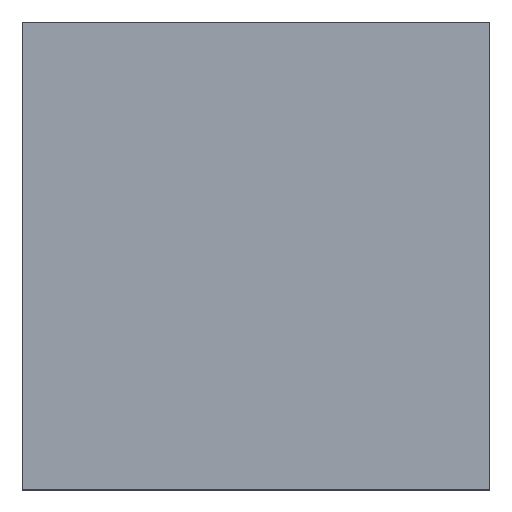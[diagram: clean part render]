
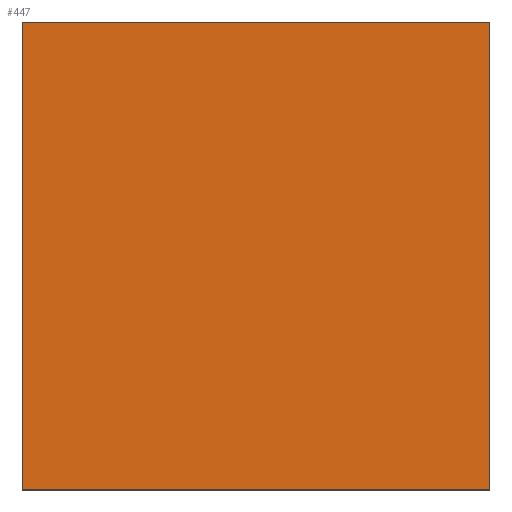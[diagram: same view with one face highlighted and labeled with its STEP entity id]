
A CAD part, top view. The second image highlights one B-rep face of the part: STEP entity #447.
In plain terms, the highlighted planar face has unit normal (0, 0, 1).
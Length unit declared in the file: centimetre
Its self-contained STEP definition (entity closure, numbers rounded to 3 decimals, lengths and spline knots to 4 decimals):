
#4 = ORIENTED_EDGE ( 'NONE', *, *, #1525, .T. ) ;
#57 = DIRECTION ( 'NONE',  ( 0., 0., 1. ) ) ;
#73 = VERTEX_POINT ( 'NONE', #82 ) ;
#82 = CARTESIAN_POINT ( 'NONE',  ( 0., 1000., 1000. ) ) ;
#246 = EDGE_CURVE ( 'NONE', #1571, #73, #675, .T. ) ;
#447 = ADVANCED_FACE ( 'NONE', ( #621 ), #1168, .T. ) ;
#485 = CARTESIAN_POINT ( 'NONE',  ( 0., 0., 1000. ) ) ;
#512 = VERTEX_POINT ( 'NONE', #485 ) ;
#580 = DIRECTION ( 'NONE',  ( 1., 0., 0. ) ) ;
#591 = ORIENTED_EDGE ( 'NONE', *, *, #906, .T. ) ;
#621 = FACE_OUTER_BOUND ( 'NONE', #1387, .T. ) ;
#622 = CARTESIAN_POINT ( 'NONE',  ( 1000., 0., 1000. ) ) ;
#634 = LINE ( 'NONE', #1362, #1569 ) ;
#659 = CARTESIAN_POINT ( 'NONE',  ( 1000., 1000., 1000. ) ) ;
#675 = LINE ( 'NONE', #1264, #1389 ) ;
#693 = DIRECTION ( 'NONE',  ( -1., 0., 0. ) ) ;
#748 = CARTESIAN_POINT ( 'NONE',  ( 0., 0., 1000. ) ) ;
#804 = ORIENTED_EDGE ( 'NONE', *, *, #1045, .T. ) ;
#828 = LINE ( 'NONE', #1384, #1303 ) ;
#906 = EDGE_CURVE ( 'NONE', #512, #1373, #828, .T. ) ;
#1045 = EDGE_CURVE ( 'NONE', #73, #512, #1764, .T. ) ;
#1085 = DIRECTION ( 'NONE',  ( 0., -1., 0. ) ) ;
#1168 = PLANE ( 'NONE',  #1417 ) ;
#1264 = CARTESIAN_POINT ( 'NONE',  ( 0., 1000., 1000. ) ) ;
#1303 = VECTOR ( 'NONE', #580, 100. ) ;
#1315 = DIRECTION ( 'NONE',  ( 1., 0., 0. ) ) ;
#1334 = DIRECTION ( 'NONE',  ( 0., 1., 0. ) ) ;
#1362 = CARTESIAN_POINT ( 'NONE',  ( 1000., 1000., 1000. ) ) ;
#1373 = VERTEX_POINT ( 'NONE', #622 ) ;
#1384 = CARTESIAN_POINT ( 'NONE',  ( 0., 0., 1000. ) ) ;
#1387 = EDGE_LOOP ( 'NONE', ( #804, #591, #4, #1684 ) ) ;
#1389 = VECTOR ( 'NONE', #693, 100. ) ;
#1417 = AXIS2_PLACEMENT_3D ( 'NONE', #748, #57, #1315 ) ;
#1472 = CARTESIAN_POINT ( 'NONE',  ( 0., 1000., 1000. ) ) ;
#1525 = EDGE_CURVE ( 'NONE', #1373, #1571, #634, .T. ) ;
#1569 = VECTOR ( 'NONE', #1334, 100. ) ;
#1571 = VERTEX_POINT ( 'NONE', #659 ) ;
#1632 = VECTOR ( 'NONE', #1085, 100. ) ;
#1684 = ORIENTED_EDGE ( 'NONE', *, *, #246, .T. ) ;
#1764 = LINE ( 'NONE', #1472, #1632 ) ;
